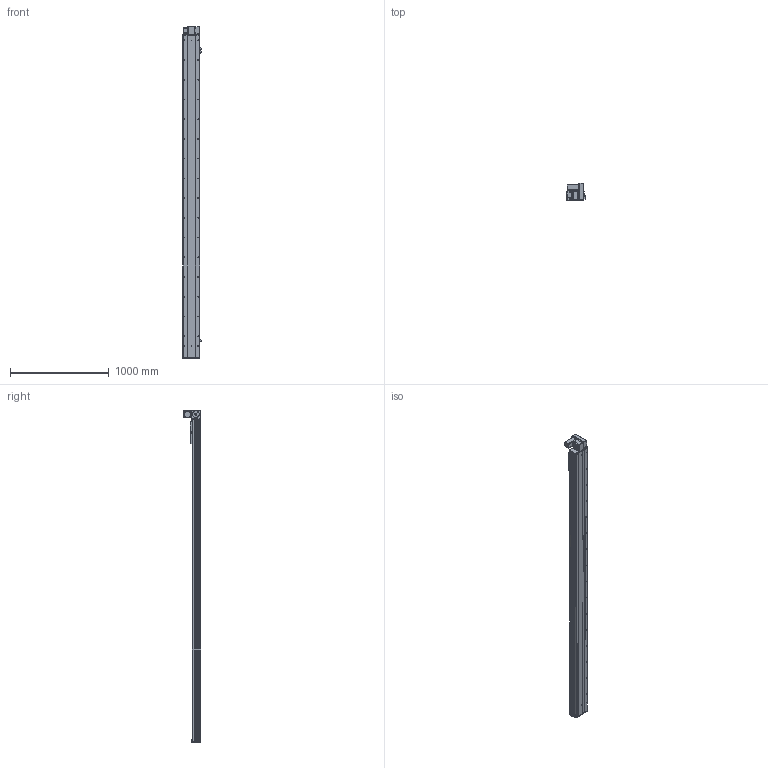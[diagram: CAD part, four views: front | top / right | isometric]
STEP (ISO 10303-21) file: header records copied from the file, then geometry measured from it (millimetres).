
FILE_DESCRIPTION (( 'STEP AP203' ), '1' );
FILE_NAME ('Y170CB-D105-S2950-UR-P400W.STEP', '2020-02-20T05:57:58', ( '微软用户' ), ( '微软中国' ), 'SwSTEP 2.0', 'SolidWorks 2017', '' );
FILE_SCHEMA (( 'CONFIG_CONTROL_DESIGN' ));
Length unit declared in the file: millimetre
Products named in the file (18): 70C-雄赽釱-奻-; B-源倛裔啣; Y170CB-D105-S2950-UR-P400W; 0C--雄赽釱俋欶-170; 0B-萇儂楊擘啣; 70CB-詩湍--; san松下电机400不带刹车----; Y100-135俋离換覜ん--; 70CB-掛极-; Y170CB-陔俋离換覜結え---; --70CB --喘謫眊楊擘啣-; Y1埴倛裔; 70CB-耜裔啣-; 17B-耜蚾蟀諉啣----; 70C--詩湍揤踡え-; 00B-俋欶BM--163; 70CB--耜裔; 70B喘謫眊----
Assembly tree (21 placements, depth 2):
  Y170CB-D105-S2950-UR-P400W
    B-源倛裔啣
    0B-萇儂楊擘啣
    san松下电机400不带刹车----
    70CB-掛极-
    --70CB --喘謫眊楊擘啣-
    70CB-耜裔啣-  x2
    70C--詩湍揤踡え-  x2
    70CB--耜裔
    70C-雄赽釱-奻-
    0C--雄赽釱俋欶-170
    70CB-詩湍--
    Y100-135俋离換覜ん--  x3
    Y170CB-陔俋离換覜結え---
    Y1埴倛裔
    17B-耜蚾蟀諉啣----
    00B-俋欶BM--163
    70B喘謫眊----
Bounding box: 183.5 x 174 x 3366 mm (x, y, z)
Volume: 14217050.4 mm3; surface area: 5139450.1 mm2
Topology: 21 solids, 21 shells, 1087 faces, 2933 edges, 1946 vertices
Faces by surface type: cylinder 601, plane 462, cone 24
Entity records: 34956 total; most frequent: CARTESIAN_POINT 6456, DIRECTION 5690, ORIENTED_EDGE 5348, EDGE_CURVE 2674, AXIS2_PLACEMENT_3D 2108, VERTEX_POINT 1776, LINE 1474, VECTOR 1474
